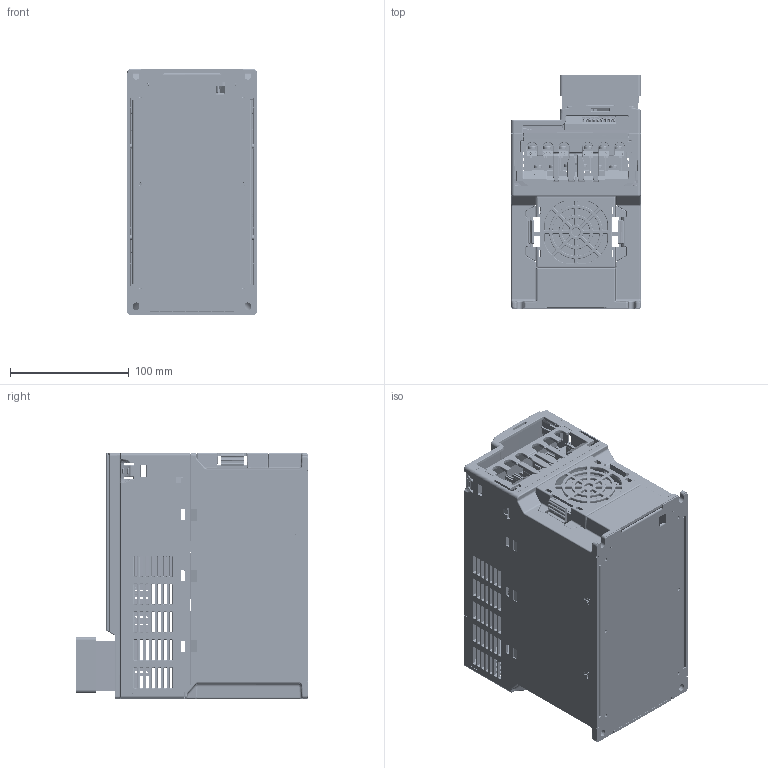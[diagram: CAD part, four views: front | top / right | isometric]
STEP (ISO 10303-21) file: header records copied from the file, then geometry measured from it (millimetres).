
FILE_DESCRIPTION((''),'2;1');
FILE_NAME('DELTA_IA_MDS_VFD-ME300-D2-3D_ASM','2023-12-28T19:10:36',('EDWARD.LIAO'),(''),'CREO PARAMETRIC BY PTC INC, 2022162','CREO PARAMETRIC BY PTC INC, 2022162','');
FILE_SCHEMA(('AUTOMOTIVE_DESIGN { 1 0 10303 214 1 1 1 1 }'));
Products named in the file (96): DELTA_IA_MDS_VFD-ME300-D2-3D-_1; DELTA_IA_MDS_VFD-ME300-D2-3D-_3; DELTA_IA_MDS_VFD-ME300-D2-3D-_4; DELTA_IA_MDS_VFD-ME300-D2-3D-_5; DELTA_IA_MDS_VFD-ME300-D2-3D-_6; DELTA_IA_MDS_VFD-ME300-D2-3D-_7; DELTA_IA_MDS_VFD-ME300-D2-3D-_8; DELTA_IA_MDS_VFD-ME300-D2-3D-_9; DELTA_IA_MDS_VFD-ME300-D2-3D_10; DELTA_IA_MDS_VFD-ME300-D2-3D_11; DELTA_IA_MDS_VFD-ME300-D2-3D_12; DELTA_IA_MDS_VFD-ME300-D2-3D_14; DELTA_IA_MDS_VFD-ME300-D2-3D_15; DELTA_IA_MDS_VFD-ME300-D2-3D_17; DELTA_IA_MDS_VFD-ME300-D2-3D_18; DELTA_IA_MDS_VFD-ME300-D2-3D_20; DELTA_IA_MDS_VFD-ME300-D2-3D_21; DELTA_IA_MDS_VFD-ME300-D2-3D_23; DELTA_IA_MDS_VFD-ME300-D2-3D_24; DELTA_IA_MDS_VFD-ME300-D2-3D_26; DELTA_IA_MDS_VFD-ME300-D2-3D_27; DELTA_IA_MDS_VFD-ME300-D2-3D_29; DELTA_IA_MDS_VFD-ME300-D2-3D_30; DELTA_IA_MDS_VFD-ME300-D2-3D_32; DELTA_IA_MDS_VFD-ME300-D2-3D_33; DELTA_IA_MDS_VFD-ME300-D2-3D_34; DELTA_IA_MDS_VFD-ME300-D2-3D_36; DELTA_IA_MDS_VFD-ME300-D2-3D_37; DELTA_IA_MDS_VFD-ME300-D2-3D_38; DELTA_IA_MDS_VFD-ME300-D2-3D_40; DELTA_IA_MDS_VFD-ME300-D2-3D_41; DELTA_IA_MDS_VFD-ME300-D2-3D_42; DELTA_IA_MDS_VFD-ME300-D2-3D_44; DELTA_IA_MDS_VFD-ME300-D2-3D_45; DELTA_IA_MDS_VFD-ME300-D2-3D_46; DELTA_IA_MDS_VFD-ME300-D2-3D_48; DELTA_IA_MDS_VFD-ME300-D2-3D_49; DELTA_IA_MDS_VFD-ME300-D2-3D_50; DELTA_IA_MDS_VFD-ME300-D2-3D_52; DELTA_IA_MDS_VFD-ME300-D2-3D_79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
Assembly tree (95 placements, depth 6):
  DELTA_IA_MDS_VFD-ME300-D2-3D_ASM
    ASM0004_ASM_1_ASM_1_1_ASM
      DELTA_IA_MDS_VFD-ME300-D2-3D-_1
      DELTA_IA_MDS_VFD-ME300-D2-3D-_3
      DELTA_IA_MDS_VFD-ME300-D2-3D-_4
      DELTA_IA_MDS_VFD-ME300-D2-3D-_5
      DELTA_IA_MDS_VFD-ME300-D2-3D-_6
      DELTA_IA_MDS_VFD-ME300-D2-3D-_7
      DELTA_IA_MDS_VFD-ME300-D2-3D-_8
      DELTA_IA_MDS_VFD-ME300-D2-3D-_9
      DELTA_IA_MDS_VFD-ME300-D2-3D_10
      DELTA_IA_MDS_VFD-ME300-D2-3D_11
      DELTA_IA_MDS_VFD-ME300-D2-3D_12
      DELTA_IA_MDS_VFD-ME300-D2-3D_14
      DELTA_IA_MDS_VFD-ME300-D2-3D_15
      DELTA_IA_MDS_VFD-ME300-D2-3D_17
      DELTA_IA_MDS_VFD-ME300-D2-3D_18
      DELTA_IA_MDS_VFD-ME300-D2-3D_20
      DELTA_IA_MDS_VFD-ME300-D2-3D_21
      DELTA_IA_MDS_VFD-ME300-D2-3D_23
      DELTA_IA_MDS_VFD-ME300-D2-3D_24
      DELTA_IA_MDS_VFD-ME300-D2-3D_26
      DELTA_IA_MDS_VFD-ME300-D2-3D_27
      DELTA_IA_MDS_VFD-ME300-D2-3D_29
      DELTA_IA_MDS_VFD-ME300-D2-3D_30
      DELTA_IA_MDS_VFD-ME300-D2-3D_32
      DELTA_IA_MDS_VFD-ME300-D2-3D_33
      DELTA_IA_MDS_VFD-ME300-D2-3D_34
      DELTA_IA_MDS_VFD-ME300-D2-3D_36
      DELTA_IA_MDS_VFD-ME300-D2-3D_37
      DELTA_IA_MDS_VFD-ME300-D2-3D_38
      DELTA_IA_MDS_VFD-ME300-D2-3D_40
      DELTA_IA_MDS_VFD-ME300-D2-3D_41
      DELTA_IA_MDS_VFD-ME300-D2-3D_42
      DELTA_IA_MDS_VFD-ME300-D2-3D_44
      DELTA_IA_MDS_VFD-ME300-D2-3D_45
      DELTA_IA_MDS_VFD-ME300-D2-3D_46
      DELTA_IA_MDS_VFD-ME300-D2-3D_48
      DELTA_IA_MDS_VFD-ME300-D2-3D_49
      DELTA_IA_MDS_VFD-ME300-D2-3D_50
      DELTA_IA_MDS_VFD-ME300-D2-3D_52
      DELTA_IA_MDS_VFD-ME300-D2-3D_79
      DELTA_IA_MDS_VFD-ME300-D2-3D_80
      DELTA_IA_MDS_VFD-ME300-D2-3D_81
      DELTA_IA_MDS_VFD-ME300-D2-3D_82
      DELTA_IA_MDS_VFD-ME300-D2-3D_84
      DELTA_IA_MDS_VFD-ME300-D2-3D_85
      DELTA_IA_MDS_VFD-ME300-D2-3D_86
      DELTA_IA_MDS_VFD-ME300-D2-3D_87
      DELTA_IA_MDS_VFD-ME300-D2-3D_88
      DELTA_IA_MDS_VFD-ME300-D2-3D_89
      DELTA_IA_MDS_VFD-ME300-D2-3D_90
      DELTA_IA_MDS_VFD-ME300-D2-3D_93
      DELTA_IA_MDS_VFD-ME300-D2-3D_98
      DELTA_IA_MDS_VFD-ME300-D2-3_100
      DELTA_IA_MDS_VFD-ME300-D2-3_101
      DELTA_IA_MDS_VFD-ME300-D2-3_102
      DELTA_IA_MDS_VFD-ME300-D2-3_103
      DELTA_IA_MDS_VFD-ME300-D2-3_114
      CAD0004659
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Bounding box: 109.6 x 196.3 x 207.3 mm (x, y, z)
Volume: 398683.7 mm3; surface area: 435481.8 mm2
Topology: 90 solids, 169 shells, 14590 faces, 38746 edges, 24567 vertices
Faces by surface type: plane 8045, cylinder 3226, cone 1574, torus 708, extrusion 569, bspline 376, sphere 80, revolution 12
Entity records: 592665 total; most frequent: CARTESIAN_POINT 122377, ORIENTED_EDGE 77176, DIRECTION 73302, EDGE_CURVE 38604, VECTOR 26364, LINE 25795, PRESENTATION_STYLE_ASSIGNMENT 25336, STYLED_ITEM 25196
